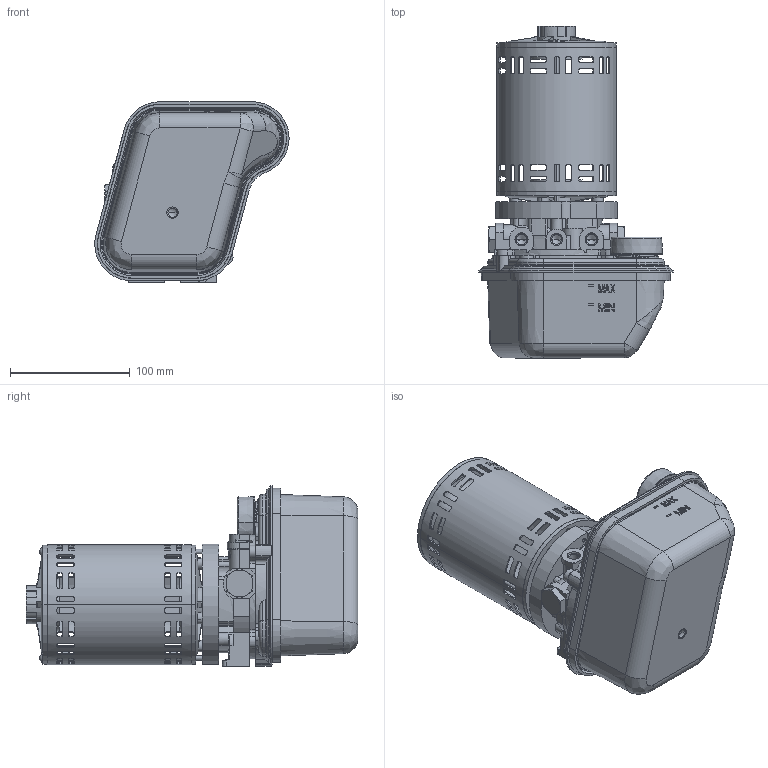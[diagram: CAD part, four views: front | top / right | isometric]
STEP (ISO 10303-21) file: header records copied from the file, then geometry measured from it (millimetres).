
FILE_DESCRIPTION((''),'2;1');
FILE_NAME('108-HA-HD-C_ASM_ASM','2009-02-17T',('wotmp01'),('OILDYNE'),'PRO/ENGINEER BY PARAMETRIC TECHNOLOGY CORPORATION, 2005380','PRO/ENGINEER BY PARAMETRIC TECHNOLOGY CORPORATION, 2005380','');
FILE_SCHEMA(('CONFIG_CONTROL_DESIGN'));
Products named in the file (2): _108-HA-HD-C_ASM; 108-HA-HD-C_ASM_ASM
Assembly tree (1 placements, depth 2):
  108-HA-HD-C_ASM_ASM
    _108-HA-HD-C_ASM
Bounding box: 162.07 x 276.98 x 150.7 mm (x, y, z)
Volume: 332621 mm3; surface area: 337413.1 mm2
Topology: 8 solids, 15 shells, 2425 faces, 6646 edges, 4298 vertices
Faces by surface type: plane 1305, cylinder 743, cone 167, torus 144, bspline 56, sphere 8, revolution 2
Entity records: 84202 total; most frequent: CARTESIAN_POINT 23144, ORIENTED_EDGE 13201, DIRECTION 12076, EDGE_CURVE 6612, VERTEX_POINT 4290, AXIS2_PLACEMENT_3D 4073, VECTOR 3928, LINE 3928
